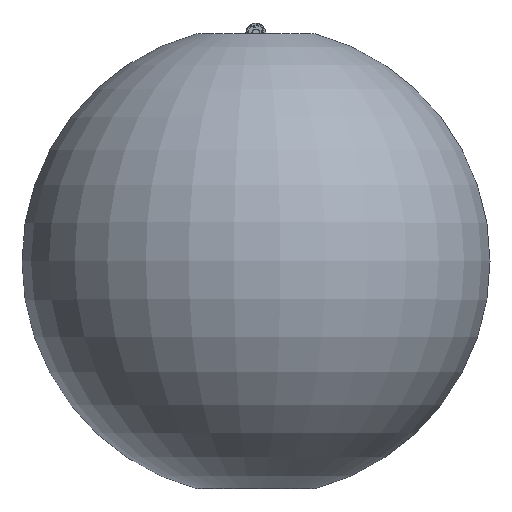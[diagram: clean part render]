
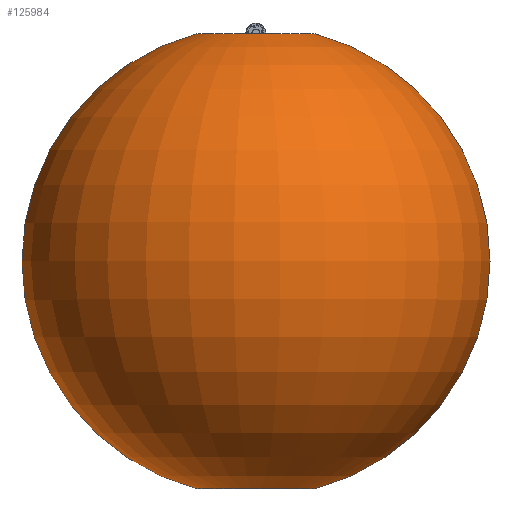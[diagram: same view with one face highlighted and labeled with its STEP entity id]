
A CAD part, top view. The second image highlights one B-rep face of the part: STEP entity #125984.
In plain terms, the highlighted toroidal (fillet/blend) face has major radius 0 mm and minor radius 950 mm.
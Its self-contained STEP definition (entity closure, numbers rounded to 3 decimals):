
#2519 = CARTESIAN_POINT ( 'NONE',  ( 0., 152., 0. ) ) ;
#5878 = EDGE_CURVE ( 'NONE', #96153, #135340, #139657, .T. ) ;
#8135 = CARTESIAN_POINT ( 'NONE',  ( 0., -767.184, 0. ) ) ;
#8400 = AXIS2_PLACEMENT_3D ( 'NONE', #8135, #95275, #44493 ) ;
#9446 = FACE_OUTER_BOUND ( 'NONE', #21176, .T. ) ;
#18543 = AXIS2_PLACEMENT_3D ( 'NONE', #91274, #141491, #104067 ) ;
#21176 = EDGE_LOOP ( 'NONE', ( #50049, #110485, #121788, #55085 ) ) ;
#24430 = CIRCLE ( 'NONE', #43731, 950. ) ;
#26627 = CARTESIAN_POINT ( 'NONE',  ( 0., 152., 0. ) ) ;
#27158 = DIRECTION ( 'NONE',  ( 0.996, 0., 0.087 ) ) ;
#41083 = AXIS2_PLACEMENT_3D ( 'NONE', #26627, #124525, #27158 ) ;
#43731 = AXIS2_PLACEMENT_3D ( 'NONE', #126014, #125482, #137734 ) ;
#44493 = DIRECTION ( 'NONE',  ( 0., 0., -1. ) ) ;
#45757 = EDGE_CURVE ( 'NONE', #79381, #51510, #142700, .T. ) ;
#47523 = CARTESIAN_POINT ( 'NONE',  ( 239.087, -767.184, 20.917 ) ) ;
#50049 = ORIENTED_EDGE ( 'NONE', *, *, #5878, .T. ) ;
#51510 = VERTEX_POINT ( 'NONE', #132281 ) ;
#55085 = ORIENTED_EDGE ( 'NONE', *, *, #152617, .T. ) ;
#76854 = CARTESIAN_POINT ( 'NONE',  ( 239.087, 1071.184, 20.917 ) ) ;
#77834 = CIRCLE ( 'NONE', #41083, 950. ) ;
#79381 = VERTEX_POINT ( 'NONE', #47523 ) ;
#84065 = TOROIDAL_SURFACE ( 'NONE', #122650, 0., 950. ) ;
#91274 = CARTESIAN_POINT ( 'NONE',  ( 0., 1071.184, 0. ) ) ;
#95275 = DIRECTION ( 'NONE',  ( 0., -1., 0. ) ) ;
#96153 = VERTEX_POINT ( 'NONE', #76854 ) ;
#99826 = DIRECTION ( 'NONE',  ( 0., -1., 0. ) ) ;
#103575 = CARTESIAN_POINT ( 'NONE',  ( 239.087, 1071.184, -20.917 ) ) ;
#104067 = DIRECTION ( 'NONE',  ( 0., 0., -1. ) ) ;
#110485 = ORIENTED_EDGE ( 'NONE', *, *, #113913, .T. ) ;
#110528 = DIRECTION ( 'NONE',  ( 0., 0., -1. ) ) ;
#113913 = EDGE_CURVE ( 'NONE', #135340, #51510, #24430, .T. ) ;
#121788 = ORIENTED_EDGE ( 'NONE', *, *, #45757, .F. ) ;
#122650 = AXIS2_PLACEMENT_3D ( 'NONE', #2519, #99826, #110528 ) ;
#124525 = DIRECTION ( 'NONE',  ( -0.087, 0., 0.996 ) ) ;
#125482 = DIRECTION ( 'NONE',  ( -0.087, 0., -0.996 ) ) ;
#125984 = ADVANCED_FACE ( 'NONE', ( #9446 ), #84065, .T. ) ;
#126014 = CARTESIAN_POINT ( 'NONE',  ( 0., 152., 0. ) ) ;
#132281 = CARTESIAN_POINT ( 'NONE',  ( 239.087, -767.184, -20.917 ) ) ;
#135340 = VERTEX_POINT ( 'NONE', #103575 ) ;
#137734 = DIRECTION ( 'NONE',  ( -0.996, 0., 0.087 ) ) ;
#139657 = CIRCLE ( 'NONE', #18543, 240. ) ;
#141491 = DIRECTION ( 'NONE',  ( 0., -1., 0. ) ) ;
#142700 = CIRCLE ( 'NONE', #8400, 240. ) ;
#152617 = EDGE_CURVE ( 'NONE', #79381, #96153, #77834, .T. ) ;
